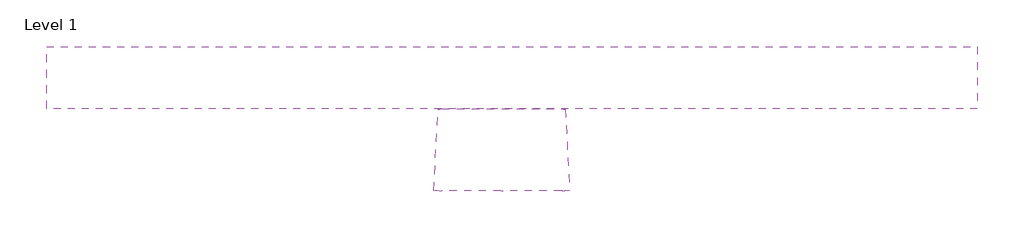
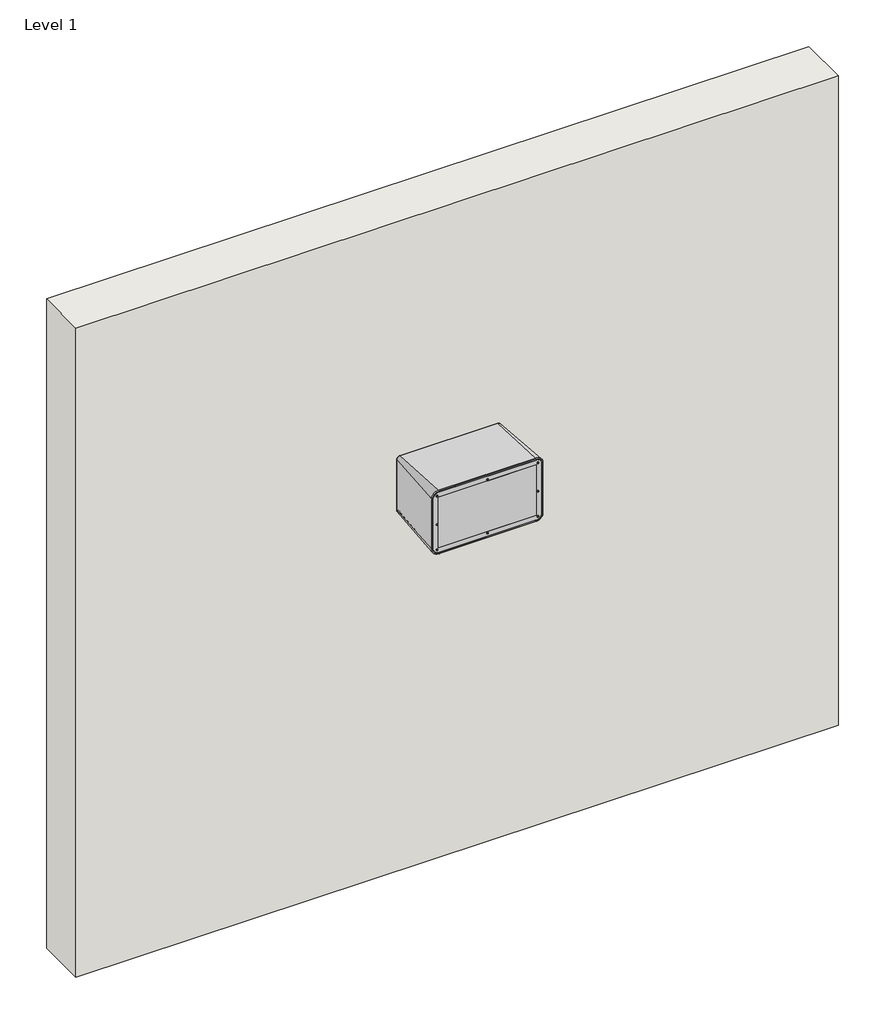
# One storey: 1 proxy, 1 wall.
"""IFC4 building model written with IfcOpenShell, lengths in millimetres."""

from ifc_helpers import new_model, si_unit, frame, origin, place, context, project, spatial, polyline, outline, extrude, transform, mapped, element, save
from components import communication_devices_ccbabaca

model = new_model("IFC4")

# Units and contexts
model_context = context("Model", 3, world=origin())
ifc_project = project(units=[si_unit("LENGTHUNIT", "METRE", prefix="MILLI")], contexts=[model_context])

# Site, building, storey
site = spatial("IfcSite", under=ifc_project)
building = spatial("IfcBuilding", under=site)
storey = spatial("IfcBuildingStorey", under=building, Name="Level 1", Elevation=0.0)

# Proxy
placement = place(None, origin())
communication_devices_shape = communication_devices_ccbabaca(model_context)
element("IfcBuildingElementProxy", 1, Name="230920 PS 8150T_B VA-(150W Leistung, Farbe schwarz) EN : PS 8150T/B VA (150W Leistung, Farbe schwarz)", ObjectType="230920 PS 8150T_B VA-(150W Leistung, Farbe schwarz) EN : PS 8150T/B VA (150W Leistung, Farbe schwarz)", at=placement, inside=storey, context=model_context, shape_type="MappedRepresentation", body=[
    mapped(communication_devices_shape, transform((2950.7973575, 1862.1766815, 2336.8), x_axis=(1.0, 0.0, 0.0), y_axis=(0.0, 1.0, 0.0), z_axis=(0.0, 0.0, 1.0))),
])

# Wall
element("IfcWall", 2, ObjectType="Exterior - 6\" Generic", at=placement, inside=storey, context=model_context, shape_type="SweptSolid", body=[
    extrude(outline(polyline([(4119.1973575, 1963.1766815), (1833.1973575, 1963.1766815), (1833.1973575, 2115.5766815), (4119.1973575, 2115.5766815), (4119.1973575, 1963.1766815)])), frame((0.0, 0.0, 1207.2429788), z_axis=(0.0, 0.0, 1.0), x_axis=(1.0, 0.0, 0.0)), (0.0, 0.0, 1.0), 2058.6988514),
])

save(model, "model.ifc")
